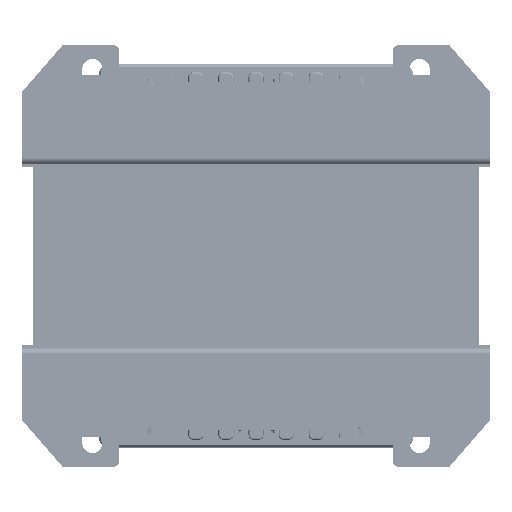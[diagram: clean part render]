
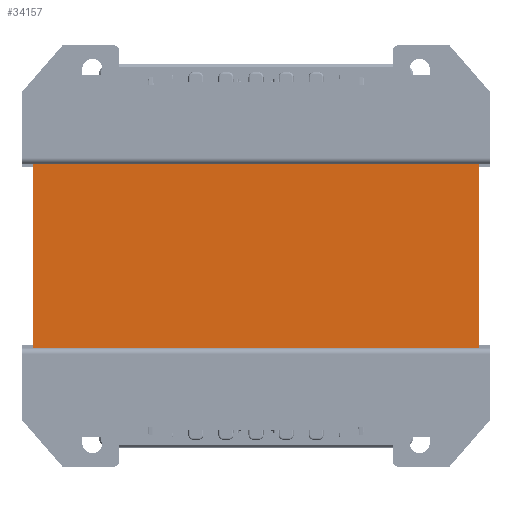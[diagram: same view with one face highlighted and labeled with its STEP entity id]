
A CAD part, front view. The second image highlights one B-rep face of the part: STEP entity #34157.
In plain terms, the highlighted planar face has unit normal (0, -1, 0).
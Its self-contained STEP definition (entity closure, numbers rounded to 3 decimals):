
#926 = CARTESIAN_POINT ( 'NONE',  ( -66.6, -55.5, -27.5 ) ) ;
#1826 = VECTOR ( 'NONE', #110228, 1000. ) ;
#2359 = AXIS2_PLACEMENT_3D ( 'NONE', #50851, #40525, #115561 ) ;
#3055 = DIRECTION ( 'NONE',  ( 0., 0., -1. ) ) ;
#4672 = ORIENTED_EDGE ( 'NONE', *, *, #88636, .F. ) ;
#5768 = ORIENTED_EDGE ( 'NONE', *, *, #40922, .T. ) ;
#6022 = ORIENTED_EDGE ( 'NONE', *, *, #72689, .F. ) ;
#13907 = CARTESIAN_POINT ( 'NONE',  ( -66.6, -55.5, 27.5 ) ) ;
#14046 = CARTESIAN_POINT ( 'NONE',  ( -66.6, -55.5, -27.5 ) ) ;
#15957 = VECTOR ( 'NONE', #49529, 1000. ) ;
#16035 = VERTEX_POINT ( 'NONE', #113400 ) ;
#22453 = CARTESIAN_POINT ( 'NONE',  ( -66.6, -55.5, 27.5 ) ) ;
#27858 = CARTESIAN_POINT ( 'NONE',  ( -66.6, -55.5, 27.5 ) ) ;
#34157 = ADVANCED_FACE ( 'NONE', ( #131827 ), #104868, .F. ) ;
#34818 = EDGE_LOOP ( 'NONE', ( #5768, #6022, #4672, #137759 ) ) ;
#36352 = VECTOR ( 'NONE', #3055, 1000. ) ;
#40525 = DIRECTION ( 'NONE',  ( 0., 1., 0. ) ) ;
#40922 = EDGE_CURVE ( 'NONE', #110746, #63705, #76437, .T. ) ;
#47350 = EDGE_CURVE ( 'NONE', #81981, #110746, #93478, .T. ) ;
#47844 = VECTOR ( 'NONE', #57359, 1000. ) ;
#49529 = DIRECTION ( 'NONE',  ( 1., 0., 0. ) ) ;
#50851 = CARTESIAN_POINT ( 'NONE',  ( -66.6, -55.5, 27.5 ) ) ;
#54530 = CARTESIAN_POINT ( 'NONE',  ( 66.6, -55.5, -27.5 ) ) ;
#57359 = DIRECTION ( 'NONE',  ( 1., 0., 0. ) ) ;
#63705 = VERTEX_POINT ( 'NONE', #54530 ) ;
#66479 = LINE ( 'NONE', #27858, #15957 ) ;
#68086 = CARTESIAN_POINT ( 'NONE',  ( 66.6, -55.5, 27.5 ) ) ;
#72689 = EDGE_CURVE ( 'NONE', #16035, #63705, #87592, .T. ) ;
#76437 = LINE ( 'NONE', #14046, #47844 ) ;
#81981 = VERTEX_POINT ( 'NONE', #22453 ) ;
#87592 = LINE ( 'NONE', #68086, #1826 ) ;
#88636 = EDGE_CURVE ( 'NONE', #81981, #16035, #66479, .T. ) ;
#93478 = LINE ( 'NONE', #13907, #36352 ) ;
#104868 = PLANE ( 'NONE',  #2359 ) ;
#110228 = DIRECTION ( 'NONE',  ( 0., 0., -1. ) ) ;
#110746 = VERTEX_POINT ( 'NONE', #926 ) ;
#113400 = CARTESIAN_POINT ( 'NONE',  ( 66.6, -55.5, 27.5 ) ) ;
#115561 = DIRECTION ( 'NONE',  ( 0., 0., 1. ) ) ;
#131827 = FACE_OUTER_BOUND ( 'NONE', #34818, .T. ) ;
#137759 = ORIENTED_EDGE ( 'NONE', *, *, #47350, .T. ) ;
